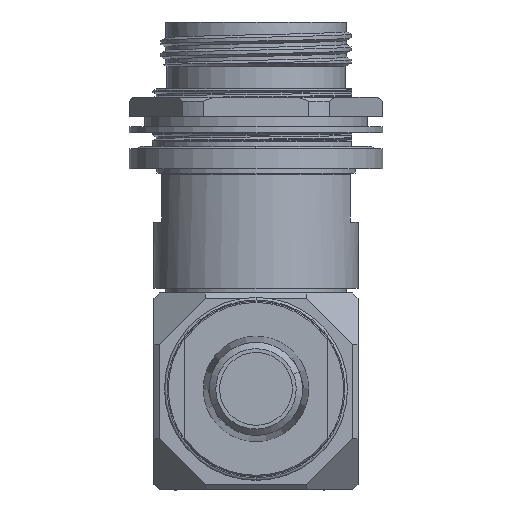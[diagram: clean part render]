
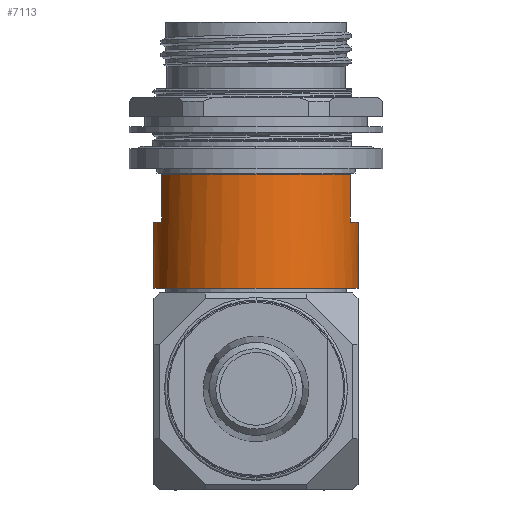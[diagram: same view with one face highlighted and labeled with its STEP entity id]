
A CAD part, front view. The second image highlights one B-rep face of the part: STEP entity #7113.
In plain terms, the highlighted cylindrical face has radius 20.447 mm (diameter 40.894 mm), a partial arc.
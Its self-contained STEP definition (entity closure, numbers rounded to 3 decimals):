
#184 = ORIENTED_EDGE ( 'NONE', *, *, #10281, .F. ) ;
#300 = ORIENTED_EDGE ( 'NONE', *, *, #4316, .F. ) ;
#326 = ORIENTED_EDGE ( 'NONE', *, *, #10056, .F. ) ;
#1106 = EDGE_CURVE ( 'NONE', #13068, #8313, #3336, .T. ) ;
#1556 = VERTEX_POINT ( 'NONE', #1640 ) ;
#1606 = VERTEX_POINT ( 'NONE', #8288 ) ;
#1640 = CARTESIAN_POINT ( 'NONE',  ( 20.447, 0., -39.853 ) ) ;
#1758 = DIRECTION ( 'NONE',  ( 0., 0., -1. ) ) ;
#2403 = ORIENTED_EDGE ( 'NONE', *, *, #1106, .F. ) ;
#2719 = ORIENTED_EDGE ( 'NONE', *, *, #10465, .T. ) ;
#3336 = LINE ( 'NONE', #5702, #6512 ) ;
#3491 = CYLINDRICAL_SURFACE ( 'NONE', #13188, 20.447 ) ;
#3558 = DIRECTION ( 'NONE',  ( 0., 0., -1. ) ) ;
#3936 = ORIENTED_EDGE ( 'NONE', *, *, #4996, .T. ) ;
#3971 = DIRECTION ( 'NONE',  ( 0., 0., -1. ) ) ;
#4316 = EDGE_CURVE ( 'NONE', #8313, #1556, #7837, .T. ) ;
#4605 = DIRECTION ( 'NONE',  ( 0., 0., -1. ) ) ;
#4996 = EDGE_CURVE ( 'NONE', #5198, #21523, #14871, .T. ) ;
#5181 = CIRCLE ( 'NONE', #8306, 20.447 ) ;
#5198 = VERTEX_POINT ( 'NONE', #13233 ) ;
#5515 = CIRCLE ( 'NONE', #20535, 20.447 ) ;
#5702 = CARTESIAN_POINT ( 'NONE',  ( 18.796, -8.049, -30.328 ) ) ;
#5816 = LINE ( 'NONE', #21130, #6934 ) ;
#6512 = VECTOR ( 'NONE', #3971, 1000. ) ;
#6934 = VECTOR ( 'NONE', #12492, 1000. ) ;
#7113 = ADVANCED_FACE ( 'NONE', ( #13439 ), #3491, .T. ) ;
#7241 = CIRCLE ( 'NONE', #19452, 20.447 ) ;
#7837 = CIRCLE ( 'NONE', #12726, 20.447 ) ;
#7876 = EDGE_CURVE ( 'NONE', #1556, #1606, #12902, .T. ) ;
#7919 = DIRECTION ( 'NONE',  ( 0., 0., -1. ) ) ;
#8288 = CARTESIAN_POINT ( 'NONE',  ( 20.447, 0., -53.01 ) ) ;
#8302 = CARTESIAN_POINT ( 'NONE',  ( -20.447, 0., -30.328 ) ) ;
#8306 = AXIS2_PLACEMENT_3D ( 'NONE', #15675, #3558, #20487 ) ;
#8313 = VERTEX_POINT ( 'NONE', #9767 ) ;
#8719 = DIRECTION ( 'NONE',  ( 0., 0., -1. ) ) ;
#9479 = EDGE_LOOP ( 'NONE', ( #184, #3936, #326, #11712, #300, #2403, #2719, #12284 ) ) ;
#9767 = CARTESIAN_POINT ( 'NONE',  ( 18.796, -8.049, -39.853 ) ) ;
#9987 = CARTESIAN_POINT ( 'NONE',  ( 0., 0., -39.853 ) ) ;
#10056 = EDGE_CURVE ( 'NONE', #1606, #21523, #7241, .T. ) ;
#10242 = CARTESIAN_POINT ( 'NONE',  ( -20.447, 0., -53.01 ) ) ;
#10257 = CARTESIAN_POINT ( 'NONE',  ( 0., 0., -30.328 ) ) ;
#10281 = EDGE_CURVE ( 'NONE', #5198, #12963, #5515, .T. ) ;
#10465 = EDGE_CURVE ( 'NONE', #13068, #12555, #5181, .T. ) ;
#10700 = EDGE_CURVE ( 'NONE', #12963, #12555, #5816, .T. ) ;
#11712 = ORIENTED_EDGE ( 'NONE', *, *, #7876, .F. ) ;
#12284 = ORIENTED_EDGE ( 'NONE', *, *, #10700, .F. ) ;
#12492 = DIRECTION ( 'NONE',  ( 0., 0., 1. ) ) ;
#12555 = VERTEX_POINT ( 'NONE', #15473 ) ;
#12618 = DIRECTION ( 'NONE',  ( 1., 0., 0. ) ) ;
#12726 = AXIS2_PLACEMENT_3D ( 'NONE', #13864, #20533, #12618 ) ;
#12902 = LINE ( 'NONE', #19577, #14951 ) ;
#12963 = VERTEX_POINT ( 'NONE', #15889 ) ;
#13068 = VERTEX_POINT ( 'NONE', #21032 ) ;
#13188 = AXIS2_PLACEMENT_3D ( 'NONE', #10257, #8719, #13652 ) ;
#13233 = CARTESIAN_POINT ( 'NONE',  ( -20.447, 0., -39.853 ) ) ;
#13439 = FACE_OUTER_BOUND ( 'NONE', #9479, .T. ) ;
#13652 = DIRECTION ( 'NONE',  ( 1., 0., 0. ) ) ;
#13864 = CARTESIAN_POINT ( 'NONE',  ( 0., 0., -39.853 ) ) ;
#14871 = LINE ( 'NONE', #8302, #14904 ) ;
#14904 = VECTOR ( 'NONE', #1758, 1000. ) ;
#14923 = DIRECTION ( 'NONE',  ( 0., 1., 0. ) ) ;
#14951 = VECTOR ( 'NONE', #4605, 1000. ) ;
#15473 = CARTESIAN_POINT ( 'NONE',  ( -18.796, -8.049, -30.328 ) ) ;
#15675 = CARTESIAN_POINT ( 'NONE',  ( 0., 0., -30.328 ) ) ;
#15889 = CARTESIAN_POINT ( 'NONE',  ( -18.796, -8.049, -39.853 ) ) ;
#16127 = DIRECTION ( 'NONE',  ( 1., 0., 0. ) ) ;
#19452 = AXIS2_PLACEMENT_3D ( 'NONE', #20939, #7919, #16127 ) ;
#19577 = CARTESIAN_POINT ( 'NONE',  ( 20.447, 0., -30.328 ) ) ;
#20487 = DIRECTION ( 'NONE',  ( 1., 0., 0. ) ) ;
#20533 = DIRECTION ( 'NONE',  ( 0., 0., 1. ) ) ;
#20535 = AXIS2_PLACEMENT_3D ( 'NONE', #9987, #21610, #14923 ) ;
#20939 = CARTESIAN_POINT ( 'NONE',  ( 0., 0., -53.01 ) ) ;
#21032 = CARTESIAN_POINT ( 'NONE',  ( 18.796, -8.049, -30.328 ) ) ;
#21130 = CARTESIAN_POINT ( 'NONE',  ( -18.796, -8.049, -30.328 ) ) ;
#21523 = VERTEX_POINT ( 'NONE', #10242 ) ;
#21610 = DIRECTION ( 'NONE',  ( 0., 0., 1. ) ) ;
